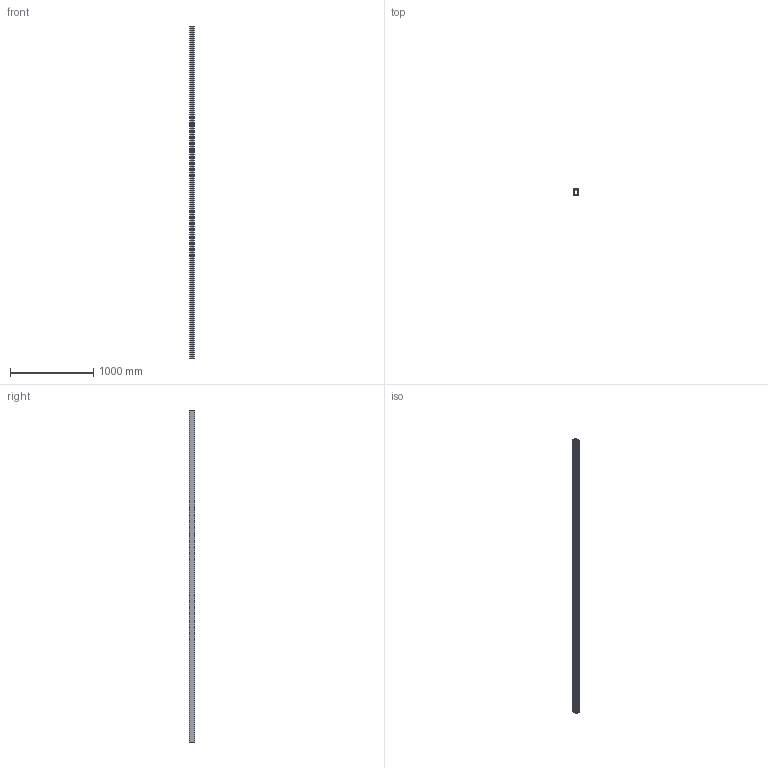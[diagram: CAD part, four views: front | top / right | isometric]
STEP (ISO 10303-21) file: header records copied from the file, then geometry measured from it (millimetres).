
FILE_DESCRIPTION (( 'STEP AP203' ), '1' );
FILE_NAME ('900.500.040.4000.STEP', '2018-03-09T13:06:50', ( '' ), ( '' ), 'SwSTEP 2.0', 'SolidWorks 2016', '' );
FILE_SCHEMA (( 'CONFIG_CONTROL_DESIGN' ));
Length unit declared in the file: millimetre
Products named in the file (1): 900.500.040.4000
Bounding box: 54 x 69.8 x 4000 mm (x, y, z)
Volume: 2488012.4 mm3; surface area: 4688825.6 mm2
Topology: 5 solids, 5 shells, 403 faces, 1179 edges, 786 vertices
Faces by surface type: plane 208, cylinder 195
Entity records: 13608 total; most frequent: DIRECTION 2377, CARTESIAN_POINT 2369, ORIENTED_EDGE 2358, EDGE_CURVE 1179, AXIS2_PLACEMENT_3D 794, LINE 789, VECTOR 789, VERTEX_POINT 786
